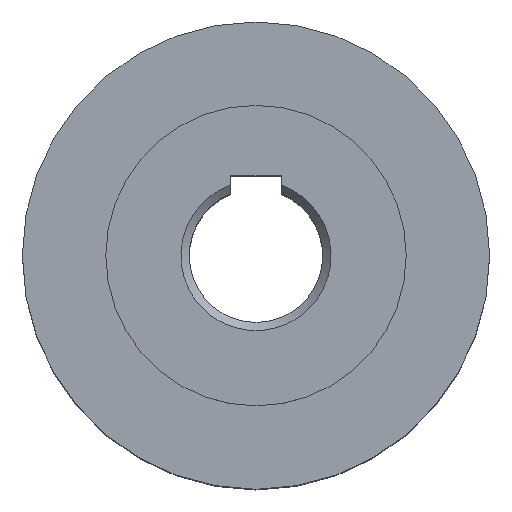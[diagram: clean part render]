
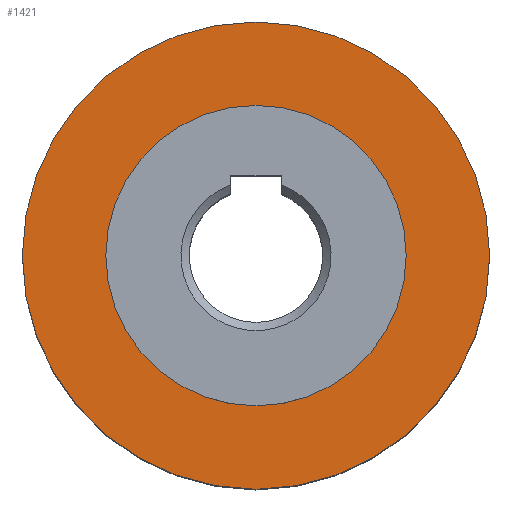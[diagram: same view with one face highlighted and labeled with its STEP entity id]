
A CAD part, top view. The second image highlights one B-rep face of the part: STEP entity #1421.
In plain terms, the highlighted planar face has unit normal (0, 0, 1).
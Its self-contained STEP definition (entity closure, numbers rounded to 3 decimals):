
#1421=ADVANCED_FACE('',(#2522,#2524),#2526,.T.);
#2522=FACE_BOUND('',#2523,.T.);
#2523=EDGE_LOOP('',(#3409));
#2524=FACE_BOUND('',#2525,.T.);
#2525=EDGE_LOOP('',(#3410));
#2526=PLANE('',#2527);
#2527=AXIS2_PLACEMENT_3D('',#2528,#2529,#2530);
#2528=CARTESIAN_POINT('',(0.,0.,12.5));
#2529=DIRECTION('',(0.,0.,1.));
#2530=DIRECTION('',(1.,0.,0.));
#3409=ORIENTED_EDGE('',*,*,#3848,.F.);
#3410=ORIENTED_EDGE('',*,*,#3850,.F.);
#3848=EDGE_CURVE('',#4583,#4583,#4584,.F.);
#3850=EDGE_CURVE('',#4587,#4587,#4588,.T.);
#4583=VERTEX_POINT('',#6834);
#4584=CIRCLE('',#6835,14.);
#4587=VERTEX_POINT('',#6844);
#4588=CIRCLE('',#6845,9.);
#6834=CARTESIAN_POINT('',(14.,0.,12.5));
#6835=AXIS2_PLACEMENT_3D('',#6836,#6837,#6838);
#6836=CARTESIAN_POINT('',(0.,0.,12.5));
#6837=DIRECTION('',(0.,0.,1.));
#6838=DIRECTION('',(1.,0.,0.));
#6844=CARTESIAN_POINT('',(9.,0.,12.5));
#6845=AXIS2_PLACEMENT_3D('',#6846,#6847,#6848);
#6846=CARTESIAN_POINT('',(0.,0.,12.5));
#6847=DIRECTION('',(0.,0.,1.));
#6848=DIRECTION('',(1.,0.,0.));
